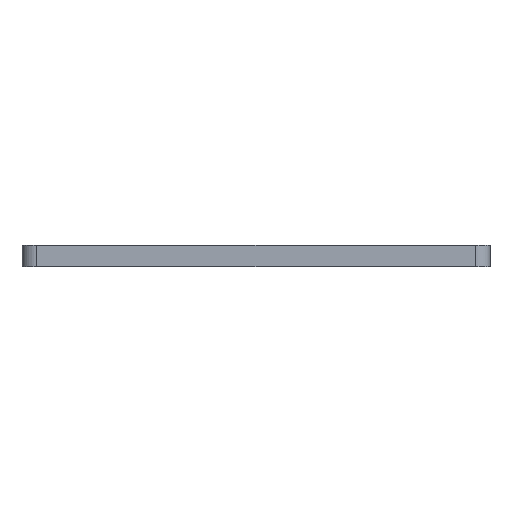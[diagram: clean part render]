
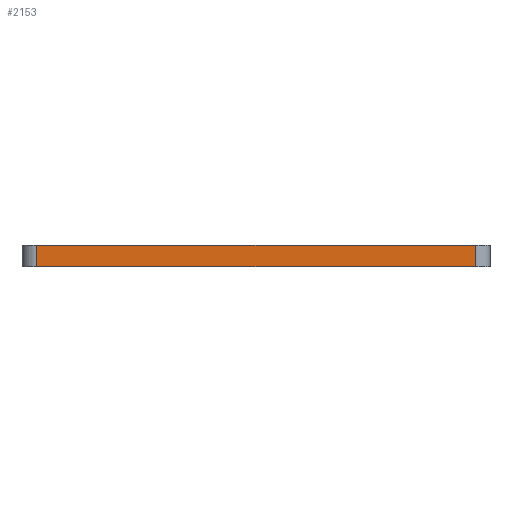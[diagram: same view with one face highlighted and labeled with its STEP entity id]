
A CAD part, left-side view. The second image highlights one B-rep face of the part: STEP entity #2153.
In plain terms, the highlighted planar face has unit normal (-1, 0, 0).
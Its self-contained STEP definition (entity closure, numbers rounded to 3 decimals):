
#298 = PLANE('',#299);
#299 = AXIS2_PLACEMENT_3D('',#300,#301,#302);
#300 = CARTESIAN_POINT('',(56.,-30.,40.));
#301 = DIRECTION('',(0.,0.,1.));
#302 = DIRECTION('',(1.,0.,-0.));
#882 = VERTEX_POINT('',#883);
#883 = CARTESIAN_POINT('',(56.,30.,40.));
#912 = EDGE_CURVE('',#913,#882,#915,.T.);
#913 = VERTEX_POINT('',#914);
#914 = CARTESIAN_POINT('',(56.,-30.,40.));
#915 = SURFACE_CURVE('',#916,(#920,#927),.PCURVE_S1.);
#916 = LINE('',#917,#918);
#917 = CARTESIAN_POINT('',(56.,-30.,40.));
#918 = VECTOR('',#919,1.);
#919 = DIRECTION('',(-0.,1.,0.));
#920 = PCURVE('',#298,#921);
#921 = DEFINITIONAL_REPRESENTATION('',(#922),#926);
#922 = LINE('',#923,#924);
#923 = CARTESIAN_POINT('',(0.,0.));
#924 = VECTOR('',#925,1.);
#925 = DIRECTION('',(0.,1.));
#926 = ( GEOMETRIC_REPRESENTATION_CONTEXT(2) 
PARAMETRIC_REPRESENTATION_CONTEXT() REPRESENTATION_CONTEXT('2D SPACE',''
  ) );
#927 = PCURVE('',#928,#933);
#928 = PLANE('',#929);
#929 = AXIS2_PLACEMENT_3D('',#930,#931,#932);
#930 = CARTESIAN_POINT('',(56.,-30.,37.));
#931 = DIRECTION('',(1.,0.,-0.));
#932 = DIRECTION('',(0.,0.,1.));
#933 = DEFINITIONAL_REPRESENTATION('',(#934),#938);
#934 = LINE('',#935,#936);
#935 = CARTESIAN_POINT('',(3.,0.));
#936 = VECTOR('',#937,1.);
#937 = DIRECTION('',(0.,-1.));
#938 = ( GEOMETRIC_REPRESENTATION_CONTEXT(2) 
PARAMETRIC_REPRESENTATION_CONTEXT() REPRESENTATION_CONTEXT('2D SPACE',''
  ) );
#1923 = CYLINDRICAL_SURFACE('',#1924,2.);
#1924 = AXIS2_PLACEMENT_3D('',#1925,#1926,#1927);
#1925 = CARTESIAN_POINT('',(58.,30.,37.));
#1926 = DIRECTION('',(0.,0.,1.));
#1927 = DIRECTION('',(1.,0.,-0.));
#2153 = ADVANCED_FACE('',(#2154),#928,.F.);
#2154 = FACE_BOUND('',#2155,.F.);
#2155 = EDGE_LOOP('',(#2156,#2184,#2212,#2233));
#2156 = ORIENTED_EDGE('',*,*,#2157,.F.);
#2157 = EDGE_CURVE('',#2158,#913,#2160,.T.);
#2158 = VERTEX_POINT('',#2159);
#2159 = CARTESIAN_POINT('',(56.,-30.,37.));
#2160 = SURFACE_CURVE('',#2161,(#2165,#2172),.PCURVE_S1.);
#2161 = LINE('',#2162,#2163);
#2162 = CARTESIAN_POINT('',(56.,-30.,37.));
#2163 = VECTOR('',#2164,1.);
#2164 = DIRECTION('',(0.,0.,1.));
#2165 = PCURVE('',#928,#2166);
#2166 = DEFINITIONAL_REPRESENTATION('',(#2167),#2171);
#2167 = LINE('',#2168,#2169);
#2168 = CARTESIAN_POINT('',(0.,0.));
#2169 = VECTOR('',#2170,1.);
#2170 = DIRECTION('',(1.,0.));
#2171 = ( GEOMETRIC_REPRESENTATION_CONTEXT(2) 
PARAMETRIC_REPRESENTATION_CONTEXT() REPRESENTATION_CONTEXT('2D SPACE',''
  ) );
#2172 = PCURVE('',#2173,#2178);
#2173 = CYLINDRICAL_SURFACE('',#2174,2.);
#2174 = AXIS2_PLACEMENT_3D('',#2175,#2176,#2177);
#2175 = CARTESIAN_POINT('',(58.,-30.,37.));
#2176 = DIRECTION('',(0.,0.,1.));
#2177 = DIRECTION('',(1.,0.,-0.));
#2178 = DEFINITIONAL_REPRESENTATION('',(#2179),#2183);
#2179 = LINE('',#2180,#2181);
#2180 = CARTESIAN_POINT('',(3.142,0.));
#2181 = VECTOR('',#2182,1.);
#2182 = DIRECTION('',(0.,1.));
#2183 = ( GEOMETRIC_REPRESENTATION_CONTEXT(2) 
PARAMETRIC_REPRESENTATION_CONTEXT() REPRESENTATION_CONTEXT('2D SPACE',''
  ) );
#2184 = ORIENTED_EDGE('',*,*,#2185,.T.);
#2185 = EDGE_CURVE('',#2158,#2186,#2188,.T.);
#2186 = VERTEX_POINT('',#2187);
#2187 = CARTESIAN_POINT('',(56.,30.,37.));
#2188 = SURFACE_CURVE('',#2189,(#2193,#2200),.PCURVE_S1.);
#2189 = LINE('',#2190,#2191);
#2190 = CARTESIAN_POINT('',(56.,-30.,37.));
#2191 = VECTOR('',#2192,1.);
#2192 = DIRECTION('',(-0.,1.,0.));
#2193 = PCURVE('',#928,#2194);
#2194 = DEFINITIONAL_REPRESENTATION('',(#2195),#2199);
#2195 = LINE('',#2196,#2197);
#2196 = CARTESIAN_POINT('',(0.,0.));
#2197 = VECTOR('',#2198,1.);
#2198 = DIRECTION('',(0.,-1.));
#2199 = ( GEOMETRIC_REPRESENTATION_CONTEXT(2) 
PARAMETRIC_REPRESENTATION_CONTEXT() REPRESENTATION_CONTEXT('2D SPACE',''
  ) );
#2200 = PCURVE('',#2201,#2206);
#2201 = PLANE('',#2202);
#2202 = AXIS2_PLACEMENT_3D('',#2203,#2204,#2205);
#2203 = CARTESIAN_POINT('',(56.,-30.,37.));
#2204 = DIRECTION('',(0.,0.,1.));
#2205 = DIRECTION('',(1.,0.,-0.));
#2206 = DEFINITIONAL_REPRESENTATION('',(#2207),#2211);
#2207 = LINE('',#2208,#2209);
#2208 = CARTESIAN_POINT('',(0.,0.));
#2209 = VECTOR('',#2210,1.);
#2210 = DIRECTION('',(0.,1.));
#2211 = ( GEOMETRIC_REPRESENTATION_CONTEXT(2) 
PARAMETRIC_REPRESENTATION_CONTEXT() REPRESENTATION_CONTEXT('2D SPACE',''
  ) );
#2212 = ORIENTED_EDGE('',*,*,#2213,.T.);
#2213 = EDGE_CURVE('',#2186,#882,#2214,.T.);
#2214 = SURFACE_CURVE('',#2215,(#2219,#2226),.PCURVE_S1.);
#2215 = LINE('',#2216,#2217);
#2216 = CARTESIAN_POINT('',(56.,30.,37.));
#2217 = VECTOR('',#2218,1.);
#2218 = DIRECTION('',(0.,0.,1.));
#2219 = PCURVE('',#928,#2220);
#2220 = DEFINITIONAL_REPRESENTATION('',(#2221),#2225);
#2221 = LINE('',#2222,#2223);
#2222 = CARTESIAN_POINT('',(0.,-60.));
#2223 = VECTOR('',#2224,1.);
#2224 = DIRECTION('',(1.,0.));
#2225 = ( GEOMETRIC_REPRESENTATION_CONTEXT(2) 
PARAMETRIC_REPRESENTATION_CONTEXT() REPRESENTATION_CONTEXT('2D SPACE',''
  ) );
#2226 = PCURVE('',#1923,#2227);
#2227 = DEFINITIONAL_REPRESENTATION('',(#2228),#2232);
#2228 = LINE('',#2229,#2230);
#2229 = CARTESIAN_POINT('',(3.142,0.));
#2230 = VECTOR('',#2231,1.);
#2231 = DIRECTION('',(0.,1.));
#2232 = ( GEOMETRIC_REPRESENTATION_CONTEXT(2) 
PARAMETRIC_REPRESENTATION_CONTEXT() REPRESENTATION_CONTEXT('2D SPACE',''
  ) );
#2233 = ORIENTED_EDGE('',*,*,#912,.F.);
